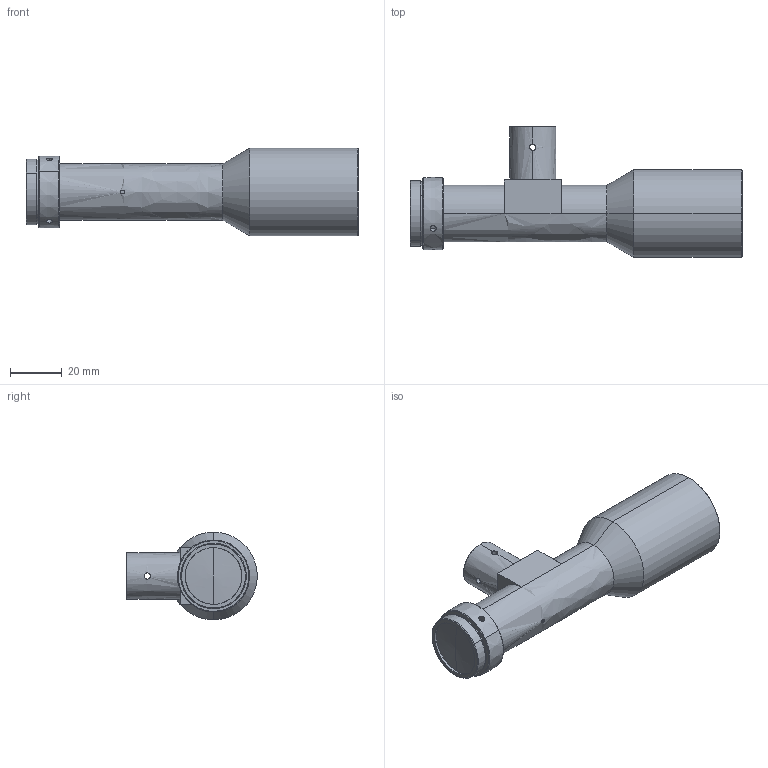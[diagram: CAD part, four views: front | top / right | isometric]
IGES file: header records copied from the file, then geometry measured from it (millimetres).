
Start section: SolidWorks IGES file using analytic representation for surfaces
Global section: file name: D:\----      产品2016.1.20\WWH\WWH   110--\WWH 05-\WWH045-135AT CT-用05-110镜片\WWH045-135CT------------ok\3D\WWH045-135CT.IGS; native system: SolidWorks 2012; preprocessor: SolidWorks 2012; author: frank; date: 170712.140427; units: millimetre
Bounding box: 128.79 x 50.7 x 34 mm (x, y, z)
Surface area: 15737.2 mm2 (no closed solid volume)
Topology: 0 solids, 0 shells, 116 faces, 2524 edges, 2520 vertices
Faces by surface type: revolution 95, bspline 21
